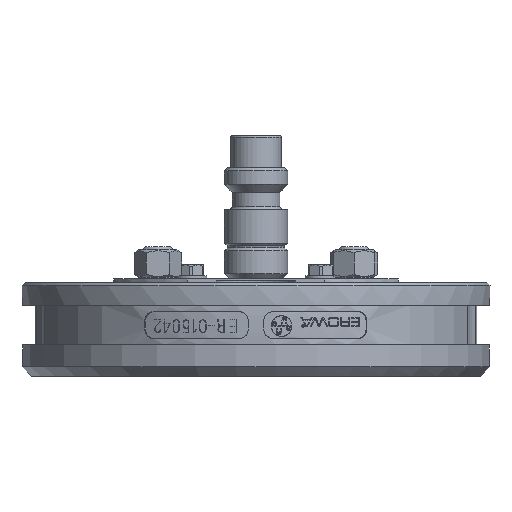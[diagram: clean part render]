
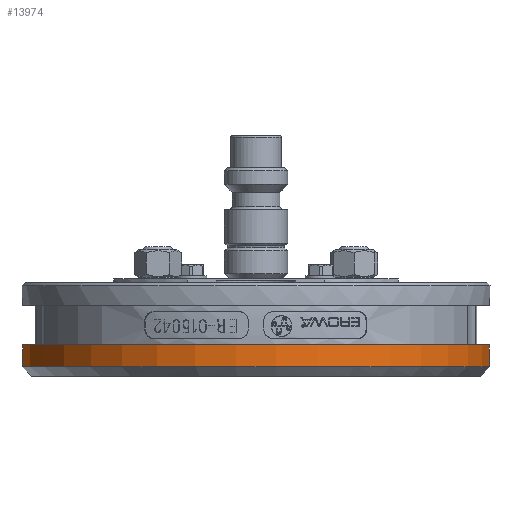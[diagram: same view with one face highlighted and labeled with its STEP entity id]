
A CAD part, left-side view. The second image highlights one B-rep face of the part: STEP entity #13974.
In plain terms, the highlighted cylindrical face has radius 74 mm (diameter 148 mm), a partial arc.
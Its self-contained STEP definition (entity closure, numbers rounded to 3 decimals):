
#11672=CYLINDRICAL_SURFACE('',#39020,74.);
#12360=FACE_OUTER_BOUND('',#17356,.T.);
#13974=ADVANCED_FACE('',(#12360),#11672,.T.);
#17356=EDGE_LOOP('',(#24240,#24241,#24242,#24243));
#19622=LINE('',#52974,#21542);
#19623=LINE('',#52978,#21543);
#21542=VECTOR('',#43018,1.);
#21543=VECTOR('',#43021,1.);
#24240=ORIENTED_EDGE('',*,*,#34190,.T.);
#24241=ORIENTED_EDGE('',*,*,#34191,.T.);
#24242=ORIENTED_EDGE('',*,*,#34192,.T.);
#24243=ORIENTED_EDGE('',*,*,#34193,.T.);
#31465=VERTEX_POINT('',#52972);
#31466=VERTEX_POINT('',#52973);
#31467=VERTEX_POINT('',#52975);
#31468=VERTEX_POINT('',#52977);
#34190=EDGE_CURVE('',#31465,#31466,#37453,.T.);
#34191=EDGE_CURVE('',#31466,#31467,#19622,.T.);
#34192=EDGE_CURVE('',#31467,#31468,#37454,.T.);
#34193=EDGE_CURVE('',#31468,#31465,#19623,.T.);
#37453=CIRCLE('',#39018,74.);
#37454=CIRCLE('',#39019,74.);
#39018=AXIS2_PLACEMENT_3D('',#52971,#43016,#43017);
#39019=AXIS2_PLACEMENT_3D('',#52976,#43019,#43020);
#39020=AXIS2_PLACEMENT_3D('',#52979,#43022,#43023);
#43016=DIRECTION('',(0.,0.,-1.));
#43017=DIRECTION('',(0.,-1.,0.));
#43018=DIRECTION('',(0.,0.,-1.));
#43019=DIRECTION('',(0.,0.,1.));
#43020=DIRECTION('',(0.,1.,0.));
#43021=DIRECTION('',(0.,0.,1.));
#43022=DIRECTION('',(0.,0.,1.));
#43023=DIRECTION('',(0.,-1.,0.));
#52971=CARTESIAN_POINT('',(0.,0.,-141.34));
#52972=CARTESIAN_POINT('',(67.,-31.417,-141.34));
#52973=CARTESIAN_POINT('',(67.,31.417,-141.34));
#52974=CARTESIAN_POINT('',(67.,31.417,-151.27));
#52975=CARTESIAN_POINT('',(67.,31.417,-148.27));
#52976=CARTESIAN_POINT('',(0.,0.,-148.27));
#52977=CARTESIAN_POINT('',(67.,-31.417,-148.27));
#52978=CARTESIAN_POINT('',(67.,-31.417,-151.27));
#52979=CARTESIAN_POINT('',(0.,0.,-151.27));
